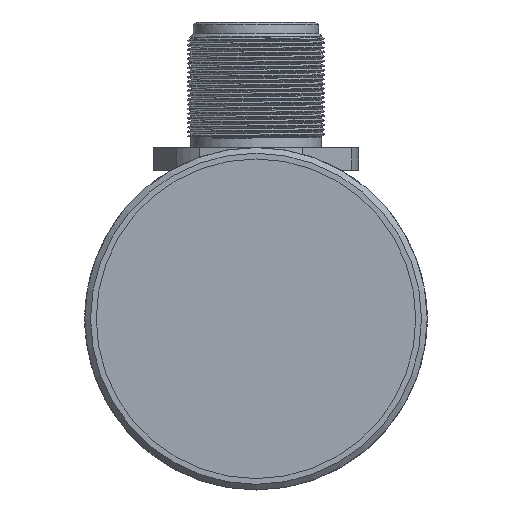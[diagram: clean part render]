
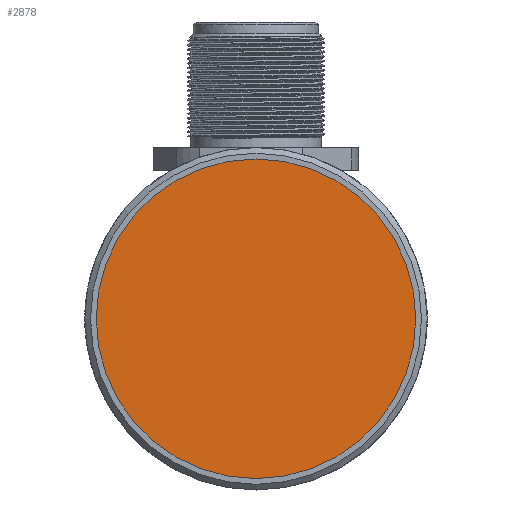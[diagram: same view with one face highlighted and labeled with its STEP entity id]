
A CAD part, left-side view. The second image highlights one B-rep face of the part: STEP entity #2878.
In plain terms, the highlighted planar face has unit normal (-1, 0, 0).
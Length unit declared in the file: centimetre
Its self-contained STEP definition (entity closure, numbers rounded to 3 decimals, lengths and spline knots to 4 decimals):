
#694=PLANE('',#3094);
#773=CIRCLE('',#3092,1.4);
#955=VERTEX_POINT('',#4490);
#1330=EDGE_CURVE('',#955,#955,#773,.T.);
#1821=ORIENTED_EDGE('',*,*,#1330,.T.);
#2412=EDGE_LOOP('',(#1821));
#2652=FACE_BOUND('',#2412,.T.);
#2878=ADVANCED_FACE('',(#2652),#694,.T.);
#3092=AXIS2_PLACEMENT_3D('',#4489,#3444,#3445);
#3094=AXIS2_PLACEMENT_3D('',#4493,#3448,$);
#3444=DIRECTION('',(-1.,0.,0.));
#3445=DIRECTION('',(0.,0.,1.4));
#3448=DIRECTION('',(-1.,0.,0.));
#4489=CARTESIAN_POINT('',(0.1,0.,0.));
#4490=CARTESIAN_POINT('',(0.1,0.,1.4));
#4493=CARTESIAN_POINT('',(0.1,0.,0.));
